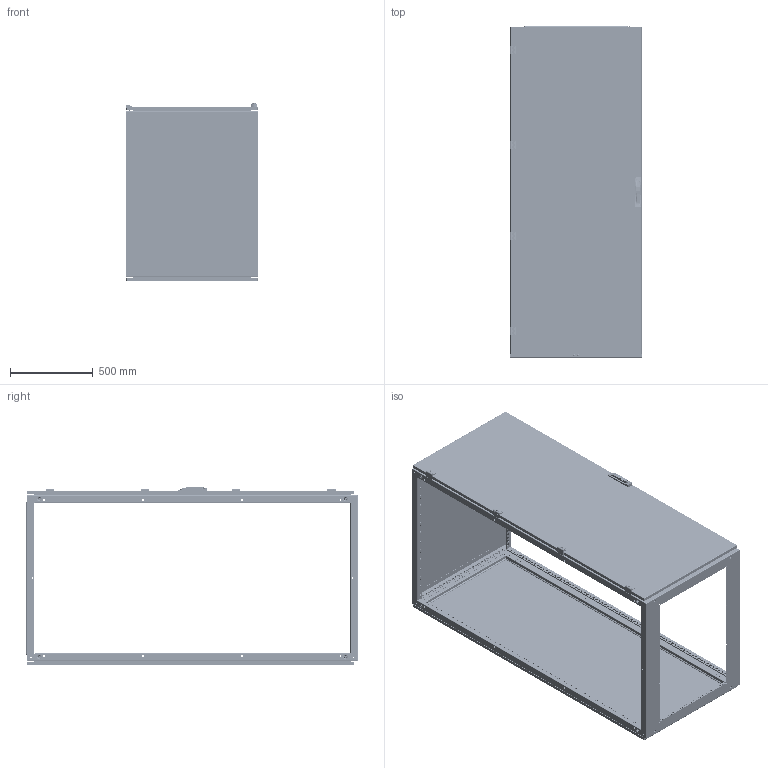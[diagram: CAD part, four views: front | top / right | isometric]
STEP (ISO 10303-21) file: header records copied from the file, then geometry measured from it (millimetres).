
FILE_DESCRIPTION (( 'STEP AP214' ), '1' );
FILE_NAME ('QA200810.step', '2011-08-10T09:01:31', ( 'Radek Veselý' ), ( 'Siemens and Partners' ), 'SwSTEP 2.0', 'SolidWorks 2006303', '' );
FILE_SCHEMA (( 'AUTOMOTIVE_DESIGN' ));
Length unit declared in the file: millimetre
Products named in the file (1): QA200810
Bounding box: 800 x 2004.5 x 1076 mm (x, y, z)
Volume: 12137179.6 mm3; surface area: 14163228.8 mm2
Topology: 94 solids, 94 shells, 7479 faces, 20524 edges, 13228 vertices
Faces by surface type: plane 4056, cylinder 2851, cone 300, torus 164, sphere 60, bspline 48
Entity records: 327656 total; most frequent: CARTESIAN_POINT 43674, DIRECTION 41400, ORIENTED_EDGE 40640, EDGE_CURVE 20320, AXIS2_PLACEMENT_3D 13845, VECTOR 13710, LINE 13710, VERTEX_POINT 13212
